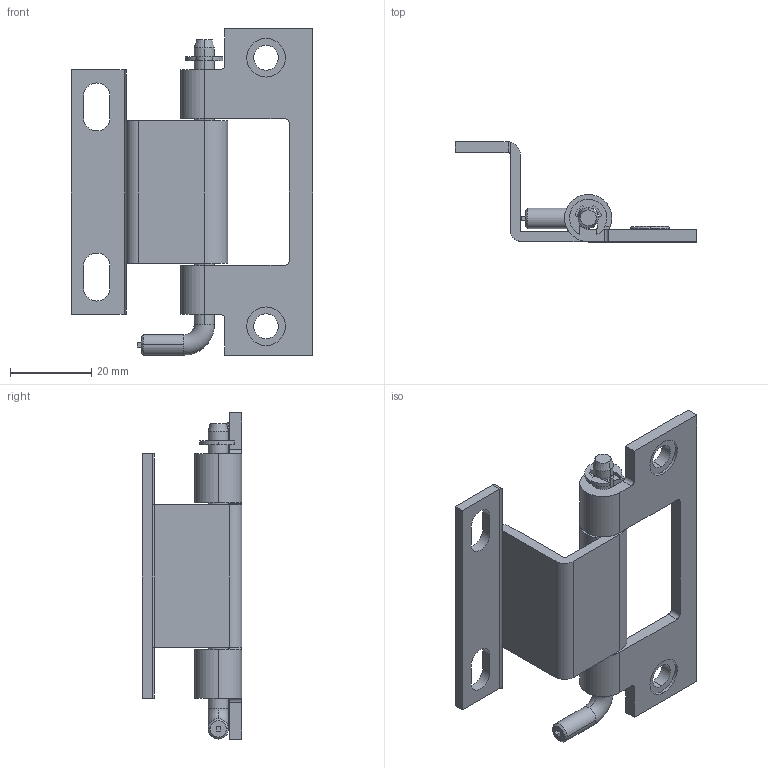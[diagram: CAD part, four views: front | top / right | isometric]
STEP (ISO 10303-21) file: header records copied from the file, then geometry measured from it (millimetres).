
FILE_DESCRIPTION (( 'STEP AP203' ), '1' );
FILE_NAME ('XG02-043-2.STEP', '2023-12-08T02:57:30', ( '' ), ( '' ), 'SwSTEP 2.0', 'SolidWorks 2020', '' );
FILE_SCHEMA (( 'CONFIG_CONTROL_DESIGN' ));
Length unit declared in the file: millimetre
Products named in the file (5): HL031 C- C; XG02-043-2; HL031-1; HL031-1A; HL031-1B
Assembly tree (4 placements, depth 2):
  XG02-043-2
    HL031-1
    HL031-1A
    HL031-1B
    HL031 C- C
Bounding box: 59.4 x 24.5 x 80.2 mm (x, y, z)
Volume: 14278.2 mm3; surface area: 12922.7 mm2
Topology: 4 solids, 4 shells, 129 faces, 328 edges, 214 vertices
Faces by surface type: plane 60, cylinder 59, torus 6, cone 4
Entity records: 4467 total; most frequent: DIRECTION 738, CARTESIAN_POINT 678, ORIENTED_EDGE 656, EDGE_CURVE 328, AXIS2_PLACEMENT_3D 274, VERTEX_POINT 214, LINE 190, VECTOR 190
